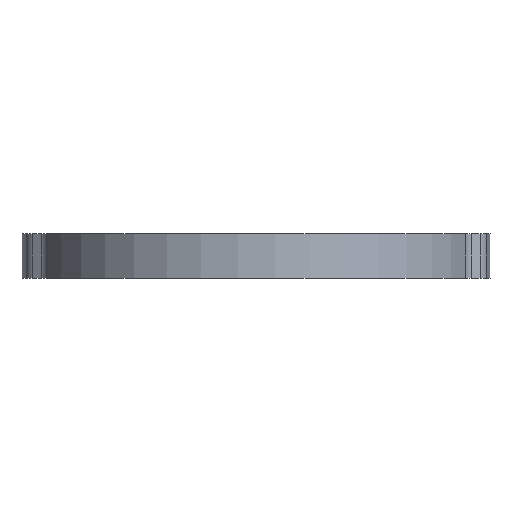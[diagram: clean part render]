
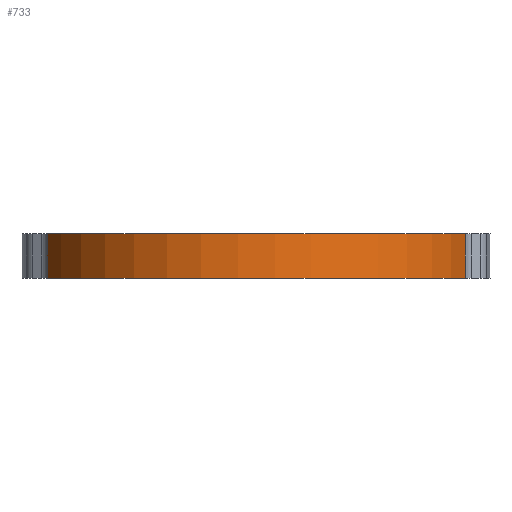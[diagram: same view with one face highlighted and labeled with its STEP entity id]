
A CAD part, front view. The second image highlights one B-rep face of the part: STEP entity #733.
In plain terms, the highlighted cylindrical face has radius 44.45 mm (diameter 88.9 mm), a partial arc.
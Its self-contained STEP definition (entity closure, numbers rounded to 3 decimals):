
#146 = VERTEX_POINT ( 'NONE', #1309 ) ;
#226 = CARTESIAN_POINT ( 'NONE',  ( 42.358, -13.476, 9. ) ) ;
#266 = EDGE_CURVE ( 'NONE', #146, #1029, #1445, .T. ) ;
#281 = CARTESIAN_POINT ( 'NONE',  ( -42.358, -13.476, 0. ) ) ;
#414 = CIRCLE ( 'NONE', #1202, 44.45 ) ;
#426 = VERTEX_POINT ( 'NONE', #768 ) ;
#491 = CARTESIAN_POINT ( 'NONE',  ( 0., 0., 0. ) ) ;
#506 = ORIENTED_EDGE ( 'NONE', *, *, #266, .T. ) ;
#578 = VERTEX_POINT ( 'NONE', #281 ) ;
#644 = DIRECTION ( 'NONE',  ( 1., 0., 0. ) ) ;
#647 = AXIS2_PLACEMENT_3D ( 'NONE', #1192, #1197, #958 ) ;
#715 = CYLINDRICAL_SURFACE ( 'NONE', #647, 44.45 ) ;
#722 = ORIENTED_EDGE ( 'NONE', *, *, #1462, .F. ) ;
#733 = ADVANCED_FACE ( 'NONE', ( #1253 ), #715, .T. ) ;
#737 = DIRECTION ( 'NONE',  ( 0., 0., 1. ) ) ;
#768 = CARTESIAN_POINT ( 'NONE',  ( -42.358, -13.476, 9. ) ) ;
#813 = CARTESIAN_POINT ( 'NONE',  ( -42.358, -13.476, 9. ) ) ;
#834 = ORIENTED_EDGE ( 'NONE', *, *, #1257, .T. ) ;
#844 = CIRCLE ( 'NONE', #957, 44.45 ) ;
#859 = EDGE_LOOP ( 'NONE', ( #1340, #506, #722, #834 ) ) ;
#956 = LINE ( 'NONE', #813, #1581 ) ;
#957 = AXIS2_PLACEMENT_3D ( 'NONE', #1489, #991, #1605 ) ;
#958 = DIRECTION ( 'NONE',  ( -1., 0., 0. ) ) ;
#991 = DIRECTION ( 'NONE',  ( 0., 0., 1. ) ) ;
#1029 = VERTEX_POINT ( 'NONE', #1136 ) ;
#1136 = CARTESIAN_POINT ( 'NONE',  ( 42.358, -13.476, 9. ) ) ;
#1192 = CARTESIAN_POINT ( 'NONE',  ( 0., 0., 9. ) ) ;
#1197 = DIRECTION ( 'NONE',  ( 0., 0., -1. ) ) ;
#1202 = AXIS2_PLACEMENT_3D ( 'NONE', #491, #1515, #644 ) ;
#1253 = FACE_OUTER_BOUND ( 'NONE', #859, .T. ) ;
#1257 = EDGE_CURVE ( 'NONE', #426, #578, #956, .T. ) ;
#1309 = CARTESIAN_POINT ( 'NONE',  ( 42.358, -13.476, 0. ) ) ;
#1340 = ORIENTED_EDGE ( 'NONE', *, *, #1542, .T. ) ;
#1427 = DIRECTION ( 'NONE',  ( 0., 0., -1. ) ) ;
#1445 = LINE ( 'NONE', #226, #1470 ) ;
#1462 = EDGE_CURVE ( 'NONE', #426, #1029, #844, .T. ) ;
#1470 = VECTOR ( 'NONE', #737, 1000. ) ;
#1489 = CARTESIAN_POINT ( 'NONE',  ( 0., 0., 9. ) ) ;
#1515 = DIRECTION ( 'NONE',  ( 0., 0., 1. ) ) ;
#1542 = EDGE_CURVE ( 'NONE', #578, #146, #414, .T. ) ;
#1581 = VECTOR ( 'NONE', #1427, 1000. ) ;
#1605 = DIRECTION ( 'NONE',  ( 1., 0., 0. ) ) ;
